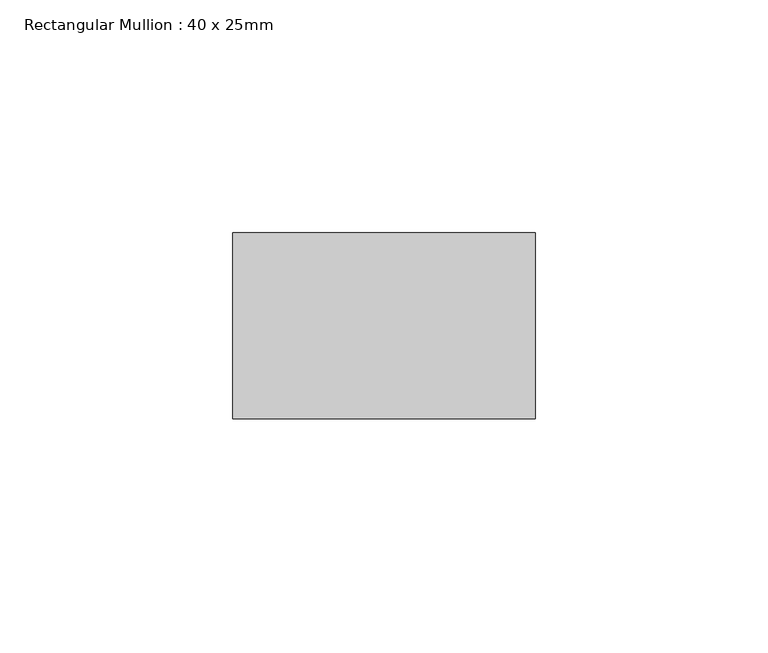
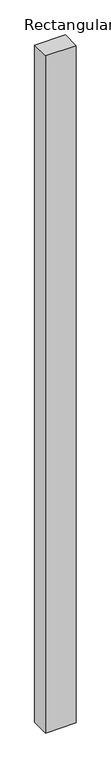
"""IFC4 building model written with IfcOpenShell, lengths in millimetres: member geometry, Rectangular Mullion : 40 x 25mm."""

from ifc_helpers import new_model, si_unit, frame, origin, place, context, project, spatial, polyline, outline, extrude, source, transform, mapped, element, save


def rectangular_mullion_40_x_25mm_2aed82b3(model_context):
    return source(origin(), model_context, "Body", "SweptSolid", [
        extrude(outline(polyline([(0.0, -20.0), (0.0, -60.0), (-65.0, -60.0), (-65.0, -20.0), (0.0, -20.0)])), frame((0.0, 0.0, -1518.6), z_axis=(0.0, 0.0, 1.0), x_axis=(1.0, 0.0, 0.0)), (0.0, 0.0, 1.0), 1518.6),
    ])


if __name__ == "__main__":
    model = new_model("IFC4")
    model_context = context("Model", 3, world=origin())
    ifc_project = project(units=[si_unit("LENGTHUNIT", "METRE", prefix="MILLI")], contexts=[model_context])
    site = spatial("IfcSite", under=ifc_project)
    building = spatial("IfcBuilding", under=site)
    placement = place(None, origin())
    rectangular_mullion_40_x_25mm_shape = rectangular_mullion_40_x_25mm_2aed82b3(model_context)
    element("IfcMember", 1, ObjectType="Rectangular Mullion : 40 x 25mm", at=placement, inside=building, context=model_context, shape_type="MappedRepresentation", body=[
        mapped(rectangular_mullion_40_x_25mm_shape, transform((0.0, 0.0, 0.0), x_axis=(1.0, 0.0, 0.0), y_axis=(0.0, 1.0, 0.0), z_axis=(0.0, 0.0, 1.0))),
    ])
    save(model, "model.ifc")
